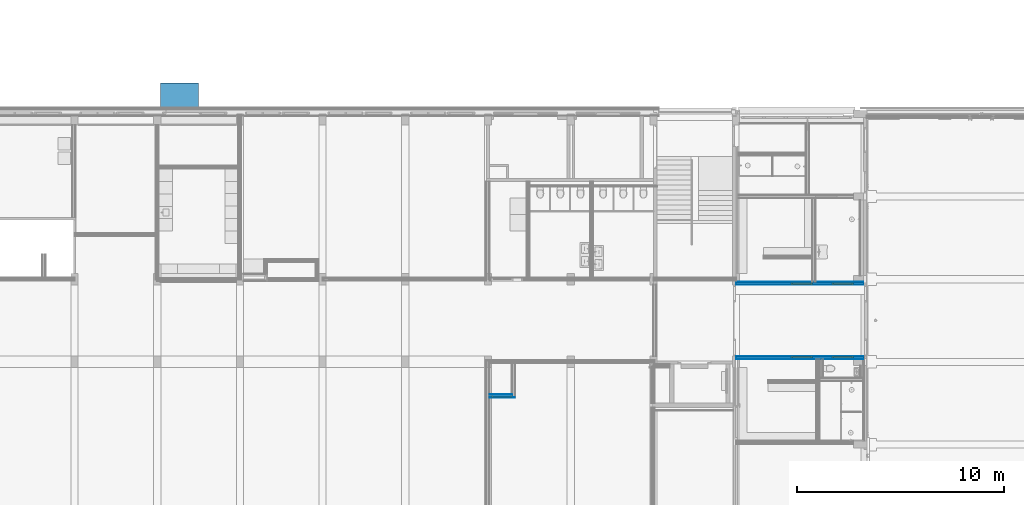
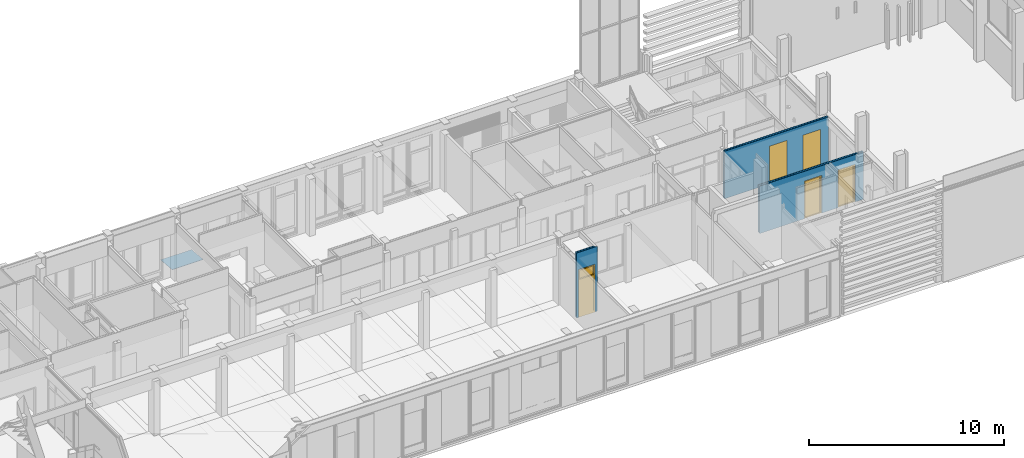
# One storey, part 2 of 109: 15 building element parts, 5 doors, 1 ramp, 5 openings, 3 elements without a shape of their own.
"""IFC2X3 building model written with IfcOpenShell, lengths in millimetres."""

from ifc_helpers import new_model, entity, si_unit, converted_unit, derived_unit, money_unit, direction, frame, origin_with_axes, place, context, subcontext, project, spatial, faceted_brep, source, transform, mapped, material, type_object, type_shapes, element, fill, aggregate, save


model = new_model("IFC2X3")

# Units and contexts
model_context = context("Model", 3, precision=0.01, world=origin_with_axes(), true_north=direction((0.0, 1.0)))
body_context = subcontext(model_context, "Body", "Model", "MODEL_VIEW")
ifc_project = project(units=[si_unit("LENGTHUNIT", "METRE", prefix="MILLI"), si_unit("AREAUNIT", "SQUARE_METRE"), si_unit("VOLUMEUNIT", "CUBIC_METRE"), converted_unit("PLANEANGLEUNIT", "DEGREE", entity("IfcPlaneAngleMeasure", 0.0174532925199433), si_unit("PLANEANGLEUNIT", "RADIAN"), dimensions=[0, 0, 0, 0, 0, 0, 0]), money_unit("EUR"), converted_unit("TIMEUNIT", "Year", entity("IfcTimeMeasure", 31557600.0), si_unit("TIMEUNIT", "SECOND"), dimensions=[0, 0, 1, 0, 0, 0, 0]), si_unit("MASSUNIT", "GRAM", prefix="KILO"), si_unit("THERMODYNAMICTEMPERATUREUNIT", "DEGREE_CELSIUS"), si_unit("LUMINOUSINTENSITYUNIT", "LUMEN"), si_unit("ENERGYUNIT", "JOULE", prefix="MEGA"), derived_unit("THERMALCONDUCTANCEUNIT", [(si_unit("POWERUNIT", "WATT"), 1), (si_unit("LENGTHUNIT", "METRE"), -1), (si_unit("THERMODYNAMICTEMPERATUREUNIT", "KELVIN"), -1)]), derived_unit("SPECIFICHEATCAPACITYUNIT", [(si_unit("ENERGYUNIT", "JOULE"), 1), (si_unit("MASSUNIT", "GRAM", prefix="KILO"), -1), (si_unit("THERMODYNAMICTEMPERATUREUNIT", "KELVIN"), -1)]), derived_unit("MASSDENSITYUNIT", [(si_unit("MASSUNIT", "GRAM", prefix="KILO"), 1), (si_unit("VOLUMEUNIT", "CUBIC_METRE"), -1)])], contexts=[model_context])

# Site, building, storey
site_placement = place(None, origin_with_axes())
site = spatial("IfcSite", under=ifc_project, at=site_placement, Name="<site naam>", CompositionType="ELEMENT")
building_placement = place(site_placement, origin_with_axes())
building = spatial("IfcBuilding", under=site, at=building_placement, Name="<Naam gebouw>", CompositionType="ELEMENT")
storey_placement = place(building_placement, origin_with_axes())
storey = spatial("IfcBuildingStorey", under=building, at=storey_placement, Name="00 Begane grond", CompositionType="ELEMENT", Elevation=0.0)

# Door
door_style_1 = type_object("IfcDoorStyle", Name="D1 27", ConstructionType="NOTDEFINED", OperationType="SINGLE_SWING_LEFT", ParameterTakesPrecedence=False, Sizeable=False)
shared_shape_1 = source(origin_with_axes(), body_context, "Body", "Brep", [
    faceted_brep([(-467.0, -40.0, 0.0), (-450.0, -40.0, 0.0), (-450.0, -40.0, 12.0), (-467.0, -40.0, 12.0), (467.0, -40.0, 0.0), (450.0, -40.0, 0.0), (450.0, -114.0, 0.0), (-450.0, -114.0, 0.0), (-450.0, -114.0, 11.99999999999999), (450.0, -114.0, 11.99999999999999), (450.0, -40.0, 12.0), (467.0, -40.0, 12.0)], [[[0, 1, 2, 3]], [[0, 4, 5, 6, 7, 1]], [[1, 7, 8, 2]], [[3, 2, 8, 9, 10, 11]], [[4, 0, 3, 11]], [[5, 4, 11, 10]], [[6, 5, 10, 9]], [[7, 6, 9, 8]]]),
    faceted_brep([(449.9999999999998, -40.0, 0.0), (450.0, -114.0, 0.0), (450.0, -114.0, 2300.0), (450.0, -39.99999999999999, 2300.0), (467.0, -40.0, 0.0), (467.0, 0.0, 0.0), (517.0, 0.0, 0.0), (517.0, -114.0, 0.0), (517.0, -114.0, 2300.0), (467.0, -40.0, 2300.0), (517.0, 0.0, 2300.0), (467.0, 0.0, 2300.0)], [[[0, 1, 2, 3]], [[4, 5, 6, 7, 1, 0]], [[1, 7, 8, 2]], [[9, 3, 2, 8, 10, 11]], [[9, 4, 0, 3]], [[11, 5, 4, 9]], [[11, 10, 6, 5]], [[6, 10, 8, 7]]]),
    faceted_brep([(-467.0, -40.0, 2300.0), (-467.0, 0.0, 2300.0), (-517.0, 0.0, 2300.0), (-517.0, -114.0, 2300.0), (-450.0, -114.0, 2300.0), (-450.0, -39.99999999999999, 2300.0), (-467.0, -40.0, 0.0), (-467.0, 0.0, 0.0), (-517.0, 0.0, 0.0), (-517.0, -114.0, 0.0), (-450.0, -114.0, 0.0), (-450.0, -40.0, 0.0)], [[[0, 1, 2, 3, 4, 5]], [[0, 6, 7, 1]], [[7, 8, 2, 1]], [[2, 8, 9, 3]], [[3, 9, 10, 4]], [[5, 4, 10, 11]], [[5, 11, 6, 0]], [[6, 11, 10, 9, 8, 7]]]),
    faceted_brep([(467.0, 0.0, 2317.0), (-467.0, 0.0, 2317.0), (-467.0, 0.0, 2300.0), (-517.0, 0.0, 2300.0), (-517.0, 0.0, 2367.0), (517.0, 0.0, 2367.0), (517.0, 0.0, 2300.0), (467.0, 0.0, 2300.0), (467.0, -40.0, 2317.0), (-467.0, -40.0, 2317.0), (-467.0, -40.0, 2300.0), (-450.0, -39.99999999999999, 2300.0), (-450.0, -114.0, 2300.0), (-517.0, -114.0, 2300.0), (-517.0, -114.0, 2367.0), (517.0, -114.0, 2367.0), (517.0, -114.0, 2300.0), (467.0, -40.0, 2300.0), (450.0, -114.0, 2300.0), (450.0, -39.99999999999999, 2300.0)], [[[0, 1, 2, 3, 4, 5, 6, 7]], [[0, 8, 9, 1]], [[1, 9, 10, 2]], [[10, 11, 12, 13, 3, 2]], [[4, 3, 13, 14]], [[5, 4, 14, 15]], [[6, 5, 15, 16]], [[17, 7, 6, 16, 18, 19]], [[7, 17, 8, 0]], [[10, 9, 8, 17, 19, 11]], [[19, 18, 12, 11]], [[12, 18, 16, 15, 14, 13]]]),
    faceted_brep([(-467.0000000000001, 0.0, 0.0), (467.0, 0.0, 0.0), (467.0, -40.0, 0.0), (-467.0000000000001, -40.0, 0.0), (-467.0000000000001, 0.0, 2317.0), (467.0, 0.0, 2317.0), (467.0, -40.00000000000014, 2317.0), (-467.0000000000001, -40.00000000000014, 2317.0)], [[[0, 1, 2, 3]], [[0, 4, 5, 1]], [[1, 5, 6, 2]], [[3, 2, 6, 7]], [[4, 0, 3, 7]], [[5, 4, 7, 6]]]),
])
type_shapes(door_style_1, [shared_shape_1])
wall_1_placement = place(storey_placement, frame((58157.78284470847, 11725.00000000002, 0.0), z_axis=(0.0, 0.0, 1.0), x_axis=(-1.0, 0.0, 0.0)))
opening_1_placement = place(wall_1_placement, frame((999.7828447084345, 0.0, 0.0), z_axis=(0.0, 0.0, 1.0), x_axis=(1.0, 0.0, 0.0)))
door_1_placement = place(opening_1_placement, frame((-450.0000000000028, 0.0, 0.0), z_axis=(0.0, 0.0, 1.0), x_axis=(1.0, 0.0, 0.0)))
door_1 = element("IfcDoor", 1, at=door_1_placement, inside=storey, type_object=door_style_1, Name="22_BI-A-01_305", ObjectType="DOOR", OverallHeight=2367.0, OverallWidth=1034.0, context=body_context, shape_type="MappedRepresentation", body=[
    mapped(shared_shape_1, transform((450.0000000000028, 0.0, 0.0))),
])

opening_2_placement = place(wall_1_placement, frame((2983.782841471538, 0.0, 0.0), z_axis=(0.0, 0.0, 1.0), x_axis=(1.0, 0.0, 0.0)))
door_2_placement = place(opening_2_placement, frame((-450.0000000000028, 0.0, 0.0), z_axis=(0.0, 0.0, 1.0), x_axis=(1.0, 0.0, 0.0)))
door_2 = element("IfcDoor", 2, at=door_2_placement, inside=storey, type_object=door_style_1, Name="22_BI-A-01_305", ObjectType="DOOR", OverallHeight=2367.0, OverallWidth=1034.0, context=body_context, shape_type="MappedRepresentation", body=[
    mapped(shared_shape_1, transform((450.0000000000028, 0.0, 0.0))),
])

door_style_2 = type_object("IfcDoorStyle", Name="D1 27", ConstructionType="NOTDEFINED", OperationType="SINGLE_SWING_RIGHT", ParameterTakesPrecedence=False, Sizeable=False)
shared_shape_2 = source(origin_with_axes(), body_context, "Body", "Brep", [
    faceted_brep([(467.0, -40.0, 0.0), (467.0, -40.0, 12.0), (450.0, -40.0, 12.0), (450.0, -40.0, 0.0), (-467.0, -40.0, 0.0), (-467.0, -40.0, 12.0), (-450.0, -40.0, 12.0), (-450.0, -114.0, 11.99999999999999), (450.0, -114.0, 11.99999999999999), (450.0, -114.0, 0.0), (-450.0, -114.0, 0.0), (-450.0, -40.0, 0.0)], [[[0, 1, 2, 3]], [[4, 5, 1, 0]], [[1, 5, 6, 7, 8, 2]], [[3, 2, 8, 9]], [[0, 3, 9, 10, 11, 4]], [[11, 6, 5, 4]], [[10, 7, 6, 11]], [[9, 8, 7, 10]]]),
    faceted_brep([(-449.9999999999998, -40.0, 0.0), (-450.0, -39.99999999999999, 2300.0), (-450.0, -114.0, 2300.0), (-450.0, -114.0, 0.0), (-467.0, -40.0, 2300.0), (-467.0, -40.0, 0.0), (-467.0, 0.0, 2300.0), (-517.0, 0.0, 2300.0), (-517.0, -114.0, 2300.0), (-517.0, -114.0, 0.0), (-517.0, 0.0, 0.0), (-467.0, 0.0, 0.0)], [[[0, 1, 2, 3]], [[4, 1, 0, 5]], [[4, 6, 7, 8, 2, 1]], [[3, 2, 8, 9]], [[5, 0, 3, 9, 10, 11]], [[6, 4, 5, 11]], [[6, 11, 10, 7]], [[10, 9, 8, 7]]]),
    faceted_brep([(467.0, -40.0, 2300.0), (450.0, -39.99999999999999, 2300.0), (450.0, -114.0, 2300.0), (517.0, -114.0, 2300.0), (517.0, 0.0, 2300.0), (467.0, 0.0, 2300.0), (467.0, -40.0, 0.0), (450.0, -40.0, 0.0), (450.0, -114.0, 0.0), (517.0, -114.0, 0.0), (517.0, 0.0, 0.0), (467.0, 0.0, 0.0)], [[[0, 1, 2, 3, 4, 5]], [[1, 0, 6, 7]], [[1, 7, 8, 2]], [[3, 2, 8, 9]], [[4, 3, 9, 10]], [[11, 5, 4, 10]], [[0, 5, 11, 6]], [[6, 11, 10, 9, 8, 7]]]),
    faceted_brep([(-467.0, 0.0, 2317.0), (-467.0, 0.0, 2300.0), (-517.0, 0.0, 2300.0), (-517.0, 0.0, 2367.0), (517.0, 0.0, 2367.0), (517.0, 0.0, 2300.0), (467.0, 0.0, 2300.0), (467.0, 0.0, 2317.0), (-467.0, -40.0, 2317.0), (-467.0, -40.0, 2300.0), (-450.0, -39.99999999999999, 2300.0), (-450.0, -114.0, 2300.0), (-517.0, -114.0, 2300.0), (-517.0, -114.0, 2367.0), (517.0, -114.0, 2367.0), (517.0, -114.0, 2300.0), (467.0, -40.0, 2300.0), (450.0, -114.0, 2300.0), (450.0, -39.99999999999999, 2300.0), (467.0, -40.0, 2317.0)], [[[0, 1, 2, 3, 4, 5, 6, 7]], [[1, 0, 8, 9]], [[9, 10, 11, 12, 2, 1]], [[2, 12, 13, 3]], [[3, 13, 14, 4]], [[4, 14, 15, 5]], [[16, 6, 5, 15, 17, 18]], [[7, 6, 16, 19]], [[0, 7, 19, 8]], [[16, 18, 10, 9, 8, 19]], [[10, 18, 17, 11]], [[17, 15, 14, 13, 12, 11]]]),
    faceted_brep([(467.0000000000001, 0.0, 0.0), (467.0000000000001, -40.0, 0.0), (-467.0, -40.0, 0.0), (-467.0, 0.0, 0.0), (467.0000000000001, 0.0, 2317.0), (467.0000000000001, -40.00000000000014, 2317.0), (-467.0, -40.00000000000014, 2317.0), (-467.0, 0.0, 2317.0)], [[[0, 1, 2, 3]], [[4, 5, 1, 0]], [[1, 5, 6, 2]], [[3, 2, 6, 7]], [[0, 3, 7, 4]], [[7, 6, 5, 4]]]),
])
type_shapes(door_style_2, [shared_shape_2])
wall_2_placement = place(storey_placement, frame((58157.78284470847, 8275.000000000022, 0.0), z_axis=(0.0, 0.0, 1.0), x_axis=(-1.0, 0.0, 0.0)))
opening_4_placement = place(wall_2_placement, frame((2983.78284147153, 0.0, 0.0), z_axis=(0.0, 0.0, 1.0), x_axis=(1.0, 0.0, 0.0)))
door_3_placement = place(opening_4_placement, frame((450.0000000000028, 0.0, 0.0), z_axis=(0.0, 0.0, 1.0), x_axis=(-1.0, 0.0, 0.0)))
door_3 = element("IfcDoor", 3, at=door_3_placement, inside=storey, type_object=door_style_2, Name="22_BI-A-01 sp_305", ObjectType="DOOR", OverallHeight=2367.0, OverallWidth=1034.0, context=body_context, shape_type="MappedRepresentation", body=[
    mapped(shared_shape_2, transform((450.0000000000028, 0.0, 0.0))),
])

opening_3_placement = place(wall_2_placement, frame((999.7828447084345, 0.0, 0.0), z_axis=(0.0, 0.0, 1.0), x_axis=(1.0, 0.0, 0.0)))
door_4_placement = place(opening_3_placement, frame((450.0000000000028, 0.0, 0.0), z_axis=(0.0, 0.0, 1.0), x_axis=(-1.0, 0.0, 0.0)))
door_4 = element("IfcDoor", 4, at=door_4_placement, inside=storey, type_object=door_style_2, Name="22_BI-A-01 sp_305", ObjectType="DOOR", OverallHeight=2367.0, OverallWidth=1034.0, context=body_context, shape_type="MappedRepresentation", body=[
    mapped(shared_shape_2, transform((450.0000000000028, 0.0, 0.0))),
])

door_style_3 = type_object("IfcDoorStyle", Name="D1 bl 27", ConstructionType="NOTDEFINED", OperationType="SINGLE_SWING_RIGHT", ParameterTakesPrecedence=False, Sizeable=False)
shared_shape_3 = source(origin_with_axes(), body_context, "Body", "Brep", [
    faceted_brep([(-425.0, -40.0, 2317.0), (-425.0, 0.0, 2317.0), (-425.0, 0.0, 2367.0), (-425.0, -140.0, 2367.0), (-425.0, -140.0, 2300.0), (-425.0, -140.0, 0.0), (-425.0, -40.0, 0.0), (-442.0, -40.0, 2317.0), (-442.0, 0.0, 2317.0), (-442.0, 0.0, 0.0), (-492.0, 0.0, 0.0), (-492.0, 0.0, 2933.0), (-425.0, 0.0, 2933.0), (-425.0, -140.0, 2933.0), (-492.0, -140.0, 2933.0), (-492.0, -140.0, 0.0), (-442.0, -40.0, 0.0)], [[[0, 1, 2, 3, 4, 5, 6]], [[1, 0, 7, 8]], [[8, 9, 10, 11, 12, 2, 1]], [[12, 13, 3, 2]], [[3, 13, 14, 15, 5, 4]], [[16, 6, 5, 15, 10, 9]], [[0, 6, 16, 7]], [[9, 8, 7, 16]], [[10, 15, 14, 11]], [[11, 14, 13, 12]]]),
    faceted_brep([(442.0, 0.0, 2317.0), (425.0, 0.0, 2317.0), (425.0, 0.0, 2367.0), (425.0, 0.0, 2933.0), (492.0, 0.0, 2933.0), (492.0, 0.0, 0.0), (442.0, 0.0, 0.0), (442.0, -40.0, 2317.0), (425.0, -40.0, 2317.0), (425.0, -40.0, 0.0), (425.0, -140.0, 0.0), (425.0, -140.0, 2300.0), (425.0, -140.0, 2367.0), (425.0, -140.0, 2933.0), (492.0, -140.0, 2933.0), (492.0, -140.0, 0.0), (442.0, -40.0, 0.0)], [[[0, 1, 2, 3, 4, 5, 6]], [[1, 0, 7, 8]], [[8, 9, 10, 11, 12, 2, 1]], [[2, 12, 13, 3]], [[3, 13, 14, 4]], [[4, 14, 15, 5]], [[16, 6, 5, 15, 10, 9]], [[0, 6, 16, 7]], [[16, 9, 8, 7]], [[12, 11, 10, 15, 14, 13]]]),
    faceted_brep([(-492.0, 0.0, 3000.0), (-492.0, 0.0, 2933.0), (-492.0, -140.0, 2933.0), (-492.0, -140.0, 3000.0), (492.0, 0.0, 3000.0), (492.0, 0.0, 2933.0), (425.0, 0.0, 2933.0), (-425.0, 0.0, 2933.0), (-425.0, -140.0, 2933.0), (425.0, -140.0, 2933.0), (492.0, -140.0, 2933.0), (492.0, -140.0, 3000.0)], [[[0, 1, 2, 3]], [[0, 4, 5, 6, 7, 1]], [[1, 7, 8, 2]], [[3, 2, 8, 9, 10, 11]], [[4, 0, 3, 11]], [[5, 4, 11, 10]], [[6, 5, 10, 9]], [[7, 6, 9, 8]]]),
    faceted_brep([(425.0, -40.0, 2317.0), (425.0, 0.0, 2317.0), (425.0, 0.0, 2367.0), (425.0, -140.0, 2367.0), (425.0, -140.0, 2300.0), (425.0, -40.0, 2300.0), (-425.0, -40.0, 2317.0), (-425.0, 0.0, 2317.0), (-425.0, 0.0, 2367.0), (-425.0, -140.0, 2367.0), (-425.0, -140.0, 2300.0), (-425.0, -40.0, 2300.0)], [[[0, 1, 2, 3, 4, 5]], [[1, 0, 6, 7]], [[1, 7, 8, 2]], [[8, 9, 3, 2]], [[10, 4, 3, 9]], [[11, 5, 4, 10]], [[0, 5, 11, 6]], [[6, 11, 10, 9, 8, 7]]]),
    faceted_brep([(442.0000000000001, 0.0, 0.0), (442.0000000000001, -40.0, 0.0), (-442.0, -40.0, 0.0), (-442.0, 0.0, 0.0), (442.0000000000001, 0.0, 2317.0), (442.0000000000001, -40.00000000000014, 2317.0), (-442.0, -40.00000000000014, 2317.0), (-442.0, 0.0, 2317.0)], [[[0, 1, 2, 3]], [[4, 5, 1, 0]], [[1, 5, 6, 2]], [[3, 2, 6, 7]], [[0, 3, 7, 4]], [[7, 6, 5, 4]]]),
    faceted_brep([(-425.0, -86.00000000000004, 2367.0), (425.0, -86.0, 2367.0), (425.0, -140.0, 2367.0), (-425.0, -140.0, 2367.0), (-425.0, -86.00000000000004, 2933.0), (425.0, -86.0, 2933.0), (425.0, -140.0, 2933.0), (-425.0, -140.0, 2933.0)], [[[0, 1, 2, 3]], [[0, 4, 5, 1]], [[1, 5, 6, 2]], [[3, 2, 6, 7]], [[4, 0, 3, 7]], [[5, 4, 7, 6]]]),
])
type_shapes(door_style_3, [shared_shape_3])
wall_3_placement = place(storey_placement, frame((41159.00000000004, 6425.000000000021, 0.0), z_axis=(0.0, 0.0, 1.0), x_axis=(-1.0, 0.0, 0.0)))
opening_5_placement = place(wall_3_placement, frame((492.0000000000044, 0.0, 0.0), z_axis=(0.0, 0.0, 1.0), x_axis=(1.0, 0.0, 0.0)))
door_5_placement = place(opening_5_placement, frame((-424.9999999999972, 0.0, 0.0), z_axis=(0.0, 0.0, 1.0), x_axis=(1.0, 0.0, 0.0)))
door_5 = element("IfcDoor", 5, at=door_5_placement, inside=storey, type_object=door_style_3, Name="22_BI-E-05_305", ObjectType="DOOR", OverallHeight=3000.0, OverallWidth=984.0, context=body_context, shape_type="MappedRepresentation", body=[
    mapped(shared_shape_3, transform((424.9999999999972, 150.0000000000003, 0.0))),
])

# Ramp
ramp_placement = place(storey_placement, frame((25998.85663894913, 21493.83738422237, 0.0), z_axis=(0.0, 0.0, 1.0), x_axis=(0.0, 1.0, 0.0)))
element("IfcRamp", 6, at=ramp_placement, inside=storey, Name="24_Sanitair-x_Lege", ShapeType="NOTDEFINED", context=body_context, shape_type="Brep", body=[
    faceted_brep([(0.0, 0.0, 0.0), (0.0, 1836.992273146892, 0.0), (-1195.837384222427, 1836.992273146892, 104.6222145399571), (-1195.837384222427, 0.0, 104.6222145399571), (-229.4742595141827, -3.895163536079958e-07, -2.362759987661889e-08), (-229.4742595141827, 1836.992272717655, -2.362759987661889e-08), (-1195.837384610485, 1836.992272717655, 84.54581827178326), (-1195.837384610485, -3.895163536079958e-07, 84.54581827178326)], [[[0, 1, 2, 3]], [[1, 0, 4, 5]], [[2, 1, 5, 6]], [[3, 2, 6, 7]], [[0, 3, 7, 4]], [[5, 4, 7, 6]]]),
])

# Wall, opening
wall_type = type_object("IfcWallType", Name="MS-01 GF 150 ECO DGS/2.100.2.A 150", PredefinedType="NOTDEFINED")
wall_1 = element("IfcWall", 7, at=wall_1_placement, inside=storey, type_object=wall_type, Name="22_Binnenwand_MS-01")
opening_1 = element("IfcOpeningElement", 8, at=opening_1_placement, cuts=wall_1, Name="22_BI-A-01_305", context=body_context, shape_type="Brep", body=[
    faceted_brep([(-517.000000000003, -150.9999999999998, 2367.0), (-517.000000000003, -150.9999999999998, 0.0), (517.000000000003, -150.9999999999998, 0.0), (517.000000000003, -150.9999999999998, 2367.0), (-517.000000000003, 0.9999999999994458, 2367.0), (-517.000000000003, 0.9999999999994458, 0.0), (517.000000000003, 0.9999999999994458, 0.0), (517.000000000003, 0.9999999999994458, 2367.0)], [[[0, 1, 2, 3]], [[4, 5, 1, 0]], [[5, 6, 2, 1]], [[6, 7, 3, 2]], [[7, 4, 0, 3]], [[6, 5, 4, 7]]]),
])

fill(opening_1, door_1)

# Opening
opening_2 = element("IfcOpeningElement", 9, at=opening_2_placement, cuts=wall_1, Name="22_BI-A-01_305", context=body_context, shape_type="Brep", body=[
    faceted_brep([(-517.000000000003, -150.9999999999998, 2367.0), (-517.000000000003, -150.9999999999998, 0.0), (517.000000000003, -150.9999999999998, 0.0), (517.000000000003, -150.9999999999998, 2367.0), (-517.000000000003, 0.9999999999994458, 2367.0), (-517.000000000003, 0.9999999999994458, 0.0), (517.000000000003, 0.9999999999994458, 0.0), (517.000000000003, 0.9999999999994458, 2367.0)], [[[0, 1, 2, 3]], [[4, 5, 1, 0]], [[5, 6, 2, 1]], [[6, 7, 3, 2]], [[7, 4, 0, 3]], [[6, 5, 4, 7]]]),
])

fill(opening_2, door_2)

# Building element part
ifc_material_1 = material(Name="gipsplaat")
building_element_part_1_placement = place(wall_1_placement, origin_with_axes())
building_element_part_1 = element("IfcBuildingElementPart", 10, at=building_element_part_1_placement, material=ifc_material_1, Name="gipsplaat", context=body_context, shape_type="Brep", body=[
    faceted_brep([(6157.782844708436, -12.50000000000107, 2978.0), (0.0, -12.49999999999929, 2978.0), (0.0, -12.49999999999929, 0.0), (6157.782844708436, -12.50000000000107, 0.0), (0.0, 0.0, 2978.0), (6157.782844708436, 0.0, 2978.0), (0.0, 0.0, 0.0), (6157.782844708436, 0.0, 0.0)], [[[0, 1, 2, 3]], [[4, 1, 0, 5]], [[1, 4, 6, 2]], [[6, 7, 3, 2]], [[5, 0, 3, 7]], [[4, 5, 7, 6]]]),
])

building_element_part_2_placement = place(wall_1_placement, origin_with_axes())
building_element_part_2 = element("IfcBuildingElementPart", 11, at=building_element_part_2_placement, material=ifc_material_1, Name="gipsplaat", context=body_context, shape_type="Brep", body=[
    faceted_brep([(6157.782844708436, -25.00000000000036, 2978.0), (0.0, -24.99999999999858, 2978.0), (0.0, -25.00000000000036, 0.0), (6157.782844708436, -25.00000000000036, 0.0), (0.0, -12.49999999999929, 2978.0), (6157.782844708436, -12.50000000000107, 2978.0), (0.0, -12.49999999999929, 0.0), (6157.782844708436, -12.50000000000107, 0.0)], [[[0, 1, 2, 3]], [[4, 1, 0, 5]], [[1, 4, 6, 2]], [[6, 7, 3, 2]], [[5, 0, 3, 7]], [[4, 5, 7, 6]]]),
])

ifc_material_2 = material(Name="isolatie_steenwol LSW")
building_element_part_3_placement = place(wall_1_placement, origin_with_axes())
building_element_part_3 = element("IfcBuildingElementPart", 12, at=building_element_part_3_placement, material=ifc_material_2, Name="isolatie_steenwol LSW", context=body_context, shape_type="Brep", body=[
    faceted_brep([(6157.782844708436, -125.0, 2978.0), (0.0, -124.9999999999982, 2978.0), (0.0, -125.0, 0.0), (6157.782844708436, -125.0, 0.0), (0.0, -25.00000000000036, 2978.0), (6157.782844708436, -25.00000000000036, 2978.0), (0.0, -25.00000000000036, 0.0), (6157.782844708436, -25.00000000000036, 0.0)], [[[0, 1, 2, 3]], [[4, 1, 0, 5]], [[1, 4, 6, 2]], [[6, 7, 3, 2]], [[5, 0, 3, 7]], [[4, 5, 7, 6]]]),
])

building_element_part_4_placement = place(wall_1_placement, origin_with_axes())
building_element_part_4 = element("IfcBuildingElementPart", 13, at=building_element_part_4_placement, material=ifc_material_1, Name="gipsplaat", context=body_context, shape_type="Brep", body=[
    faceted_brep([(6157.782844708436, -137.5000000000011, 2978.0), (0.0, -137.4999999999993, 2978.0), (0.0, -137.4999999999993, 0.0), (6157.782844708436, -137.5000000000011, 0.0), (0.0, -125.0, 2978.0), (6157.782844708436, -125.0, 2978.0), (0.0, -125.0, 0.0), (6157.782844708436, -125.0, 0.0)], [[[0, 1, 2, 3]], [[4, 1, 0, 5]], [[1, 4, 6, 2]], [[6, 7, 3, 2]], [[5, 0, 3, 7]], [[4, 5, 7, 6]]]),
])

building_element_part_5_placement = place(wall_1_placement, origin_with_axes())
building_element_part_5 = element("IfcBuildingElementPart", 14, at=building_element_part_5_placement, material=ifc_material_1, Name="gipsplaat", context=body_context, shape_type="Brep", body=[
    faceted_brep([(6157.782844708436, -150.0000000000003, 2978.0), (0.0, -149.9999999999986, 2978.0), (0.0, -150.0000000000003, 0.0), (6157.782844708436, -150.0000000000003, 0.0), (0.0, -137.4999999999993, 2978.0), (6157.782844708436, -137.5000000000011, 2978.0), (0.0, -137.4999999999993, 0.0), (6157.782844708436, -137.5000000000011, 0.0)], [[[0, 1, 2, 3]], [[4, 1, 0, 5]], [[1, 4, 6, 2]], [[6, 7, 3, 2]], [[5, 0, 3, 7]], [[4, 5, 7, 6]]]),
])

aggregate(wall_1, [building_element_part_1, building_element_part_2, building_element_part_3, building_element_part_4, building_element_part_5])

# Wall, opening
wall_2 = element("IfcWall", 15, at=wall_2_placement, inside=storey, type_object=wall_type, Name="22_Binnenwand_MS-01")
opening_3 = element("IfcOpeningElement", 16, at=opening_3_placement, cuts=wall_2, Name="22_BI-A-01 sp_305", context=body_context, shape_type="Brep", body=[
    faceted_brep([(517.000000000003, 150.9999999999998, 2367.0), (517.000000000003, 150.9999999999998, 0.0), (-517.000000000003, 150.9999999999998, 0.0), (-517.000000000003, 150.9999999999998, 2367.0), (517.000000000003, -0.9999999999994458, 2367.0), (517.000000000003, -0.9999999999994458, 0.0), (-517.000000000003, -0.9999999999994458, 0.0), (-517.000000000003, -0.9999999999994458, 2367.0)], [[[0, 1, 2, 3]], [[4, 5, 1, 0]], [[5, 6, 2, 1]], [[6, 7, 3, 2]], [[7, 4, 0, 3]], [[6, 5, 4, 7]]]),
])

fill(opening_3, door_4)

# Opening
opening_4 = element("IfcOpeningElement", 17, at=opening_4_placement, cuts=wall_2, Name="22_BI-A-01 sp_305", context=body_context, shape_type="Brep", body=[
    faceted_brep([(517.000000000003, 150.9999999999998, 2367.0), (517.000000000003, 150.9999999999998, 0.0), (-517.000000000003, 150.9999999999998, 0.0), (-517.000000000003, 150.9999999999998, 2367.0), (517.000000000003, -0.9999999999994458, 2367.0), (517.000000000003, -0.9999999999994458, 0.0), (-517.000000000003, -0.9999999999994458, 0.0), (-517.000000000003, -0.9999999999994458, 2367.0)], [[[0, 1, 2, 3]], [[4, 5, 1, 0]], [[5, 6, 2, 1]], [[6, 7, 3, 2]], [[7, 4, 0, 3]], [[6, 5, 4, 7]]]),
])

fill(opening_4, door_3)

# Building element part
building_element_part_6_placement = place(wall_2_placement, origin_with_axes())
building_element_part_6 = element("IfcBuildingElementPart", 18, at=building_element_part_6_placement, material=ifc_material_1, Name="gipsplaat", context=body_context, shape_type="Brep", body=[
    faceted_brep([(6157.782844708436, 137.4999999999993, 2978.0), (0.0, 137.5000000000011, 2978.0), (0.0, 137.4999999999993, 0.0), (482.7828450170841, 137.4999999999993, 0.0), (482.7828450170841, 137.4999999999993, 2.999999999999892), (1516.78283584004, 137.4999999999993, 2.999999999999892), (1516.78283584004, 137.4999999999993, 0.0), (6157.782844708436, 137.4999999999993, 0.0), (0.0, 150.0000000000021, 2978.0), (6157.782844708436, 150.0000000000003, 2978.0), (0.0, 150.0000000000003, 0.0), (482.7828450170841, 150.0000000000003, 0.0), (482.7828450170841, 150.0000000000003, 2.999999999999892), (1516.78283584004, 150.0000000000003, 2.999999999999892), (1516.78283584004, 150.0000000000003, 0.0), (6157.782844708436, 150.0000000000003, 0.0)], [[[0, 1, 2, 3, 4, 5, 6, 7]], [[8, 1, 0, 9]], [[1, 8, 10, 2]], [[10, 11, 3, 2]], [[12, 4, 3, 11]], [[13, 5, 4, 12]], [[14, 6, 5, 13]], [[7, 6, 14, 15]], [[9, 0, 7, 15]], [[8, 9, 15, 14, 13, 12, 11, 10]]]),
])

building_element_part_7_placement = place(wall_2_placement, origin_with_axes())
building_element_part_7 = element("IfcBuildingElementPart", 19, at=building_element_part_7_placement, material=ifc_material_1, Name="gipsplaat", context=body_context, shape_type="Brep", body=[
    faceted_brep([(6157.782844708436, 125.0, 2978.0), (0.0, 124.9999999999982, 2978.0), (0.0, 125.0, 0.0), (482.7828450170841, 125.0, 0.0), (482.7828450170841, 125.0, 2.999999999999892), (1516.78283584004, 125.0, 2.999999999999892), (1516.78283584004, 125.0, 0.0), (6157.782844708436, 125.0, 0.0), (0.0, 137.5000000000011, 2978.0), (6157.782844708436, 137.4999999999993, 2978.0), (0.0, 137.4999999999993, 0.0), (482.7828450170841, 137.4999999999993, 0.0), (482.7828450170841, 137.4999999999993, 2.999999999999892), (1516.78283584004, 137.4999999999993, 2.999999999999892), (1516.78283584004, 137.4999999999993, 0.0), (6157.782844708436, 137.4999999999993, 0.0)], [[[0, 1, 2, 3, 4, 5, 6, 7]], [[8, 1, 0, 9]], [[1, 8, 10, 2]], [[10, 11, 3, 2]], [[12, 4, 3, 11]], [[13, 5, 4, 12]], [[14, 6, 5, 13]], [[7, 6, 14, 15]], [[9, 0, 7, 15]], [[8, 9, 15, 14, 13, 12, 11, 10]]]),
])

building_element_part_8_placement = place(wall_2_placement, origin_with_axes())
building_element_part_8 = element("IfcBuildingElementPart", 20, at=building_element_part_8_placement, material=ifc_material_2, Name="isolatie_steenwol LSW", context=body_context, shape_type="Brep", body=[
    faceted_brep([(6157.782844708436, 25.00000000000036, 2978.0), (0.0, 25.00000000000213, 2978.0), (0.0, 25.00000000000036, 0.0), (482.7828450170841, 25.00000000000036, 0.0), (482.7828450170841, 25.00000000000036, 2.999999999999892), (1516.78283584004, 25.00000000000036, 2.999999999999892), (1516.78283584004, 25.00000000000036, 0.0), (6157.782844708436, 25.00000000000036, 0.0), (0.0, 125.0, 2978.0), (6157.782844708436, 125.0, 2978.0), (0.0, 125.0, 0.0), (482.7828450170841, 125.0, 0.0), (482.7828450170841, 125.0, 2.999999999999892), (1516.78283584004, 125.0, 2.999999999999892), (1516.78283584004, 125.0, 0.0), (6157.782844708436, 125.0, 0.0)], [[[0, 1, 2, 3, 4, 5, 6, 7]], [[8, 1, 0, 9]], [[1, 8, 10, 2]], [[10, 11, 3, 2]], [[12, 4, 3, 11]], [[13, 5, 4, 12]], [[14, 6, 5, 13]], [[7, 6, 14, 15]], [[9, 0, 7, 15]], [[8, 9, 15, 14, 13, 12, 11, 10]]]),
])

building_element_part_9_placement = place(wall_2_placement, origin_with_axes())
building_element_part_9 = element("IfcBuildingElementPart", 21, at=building_element_part_9_placement, material=ifc_material_1, Name="gipsplaat", context=body_context, shape_type="Brep", body=[
    faceted_brep([(6157.782844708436, 12.49999999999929, 2978.0), (0.0, 12.50000000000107, 2978.0), (0.0, 12.49999999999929, 0.0), (482.7828450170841, 12.49999999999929, 0.0), (482.7828450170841, 12.49999999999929, 2.999999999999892), (1516.78283584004, 12.49999999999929, 2.999999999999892), (1516.78283584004, 12.49999999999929, 0.0), (6157.782844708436, 12.49999999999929, 0.0), (0.0, 25.00000000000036, 2978.0), (6157.782844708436, 25.00000000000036, 2978.0), (0.0, 25.00000000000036, 0.0), (482.7828450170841, 25.00000000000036, 0.0), (482.7828450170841, 25.00000000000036, 2.999999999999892), (1516.78283584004, 25.00000000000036, 2.999999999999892), (1516.78283584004, 25.00000000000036, 0.0), (6157.782844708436, 25.00000000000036, 0.0)], [[[0, 1, 2, 3, 4, 5, 6, 7]], [[8, 1, 0, 9]], [[1, 8, 10, 2]], [[10, 11, 3, 2]], [[12, 4, 3, 11]], [[13, 5, 4, 12]], [[14, 6, 5, 13]], [[7, 6, 14, 15]], [[9, 0, 7, 15]], [[8, 9, 15, 14, 13, 12, 11, 10]]]),
])

building_element_part_10_placement = place(wall_2_placement, origin_with_axes())
building_element_part_10 = element("IfcBuildingElementPart", 22, at=building_element_part_10_placement, material=ifc_material_1, Name="gipsplaat", context=body_context, shape_type="Brep", body=[
    faceted_brep([(6157.782844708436, 0.0, 2978.0), (0.0, 0.0, 2978.0), (0.0, 0.0, 0.0), (482.7828450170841, -5.116902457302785e-06, 0.0), (482.7828450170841, -5.116902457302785e-06, 2.999999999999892), (1516.78283584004, -5.116902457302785e-06, 2.999999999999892), (1516.78283584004, -5.116902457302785e-06, 0.0), (6157.782844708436, 0.0, 0.0), (0.0, 12.50000000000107, 2978.0), (6157.782844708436, 12.49999999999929, 2978.0), (0.0, 12.49999999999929, 0.0), (482.7828450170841, 12.49999999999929, 0.0), (482.7828450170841, 12.49999999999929, 2.999999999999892), (1516.78283584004, 12.49999999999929, 2.999999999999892), (1516.78283584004, 12.49999999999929, 0.0), (6157.782844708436, 12.49999999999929, 0.0)], [[[0, 1, 2, 3, 4, 5, 6, 7]], [[8, 1, 0, 9]], [[1, 8, 10, 2]], [[10, 11, 3, 2]], [[12, 4, 3, 11]], [[13, 5, 4, 12]], [[14, 6, 5, 13]], [[7, 6, 14, 15]], [[9, 0, 7, 15]], [[8, 9, 15, 14, 13, 12, 11, 10]]]),
])

aggregate(wall_2, [building_element_part_6, building_element_part_7, building_element_part_8, building_element_part_9, building_element_part_10])

# Wall, opening
wall_3 = element("IfcWall", 23, at=wall_3_placement, inside=storey, type_object=wall_type, Name="22_Binnenwand_MS-01")
opening_5 = element("IfcOpeningElement", 24, at=opening_5_placement, cuts=wall_3, Name="22_BI-E-05_305", context=body_context, shape_type="Brep", body=[
    faceted_brep([(-491.9999999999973, -1.000000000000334, 3000.0), (-491.9999999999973, -1.000000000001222, 0.0), (491.9999999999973, -1.000000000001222, 0.0), (491.9999999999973, -1.000000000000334, 3000.0), (-491.9999999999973, 151.0000000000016, 3000.0), (-491.9999999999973, 151.0000000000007, 0.0), (491.9999999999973, 151.0000000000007, 0.0), (491.9999999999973, 151.0000000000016, 3000.0)], [[[0, 1, 2, 3]], [[4, 5, 1, 0]], [[5, 6, 2, 1]], [[6, 7, 3, 2]], [[7, 4, 0, 3]], [[6, 5, 4, 7]]]),
])

fill(opening_5, door_5)

# Building element part
building_element_part_11_placement = place(wall_3_placement, origin_with_axes())
building_element_part_11 = element("IfcBuildingElementPart", 25, at=building_element_part_11_placement, material=ifc_material_1, Name="gipsplaat", context=body_context, shape_type="Brep", body=[
    faceted_brep([(-125.0, 137.5000000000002, 3.000000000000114), (-125.0, 125.0, 3.000000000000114), (-125.0, 125.0, 4070.0), (-125.0, 137.5000000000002, 4070.0), (1083.999973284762, 125.0, 3.000000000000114), (1083.999973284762, 137.5000000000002, 3.000000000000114), (1084.00000000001, 125.0, 4070.0), (1084.00000000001, 137.5000000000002, 4070.0)], [[[0, 1, 2, 3]], [[4, 1, 0, 5]], [[1, 4, 6, 2]], [[6, 7, 3, 2]], [[5, 0, 3, 7]], [[4, 5, 7, 6]]]),
])

building_element_part_12_placement = place(wall_3_placement, origin_with_axes())
building_element_part_12 = element("IfcBuildingElementPart", 26, at=building_element_part_12_placement, material=ifc_material_1, Name="gipsplaat", context=body_context, shape_type="Brep", body=[
    faceted_brep([(-137.5000000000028, 150.0000000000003, 3.000000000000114), (-137.5000000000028, 137.5000000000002, 3.000000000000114), (-137.5000000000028, 137.5000000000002, 4070.0), (-137.5000000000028, 150.0000000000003, 4070.0), (1083.999973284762, 137.5000000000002, 3.000000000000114), (1083.999973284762, 150.0000000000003, 3.000000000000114), (1084.00000000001, 137.5000000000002, 4070.0), (1084.00000000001, 150.0000000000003, 4070.0)], [[[0, 1, 2, 3]], [[4, 1, 0, 5]], [[1, 4, 6, 2]], [[6, 7, 3, 2]], [[5, 0, 3, 7]], [[4, 5, 7, 6]]]),
])

building_element_part_13_placement = place(wall_3_placement, origin_with_axes())
building_element_part_13 = element("IfcBuildingElementPart", 27, at=building_element_part_13_placement, material=ifc_material_1, Name="gipsplaat", context=body_context, shape_type="Brep", body=[
    faceted_brep([(-12.50000000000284, 25.00000000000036, 3.000000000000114), (-12.50000000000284, 12.50000000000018, 3.000000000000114), (-12.50000000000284, 12.50000000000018, 4070.0), (-12.50000000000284, 25.00000000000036, 4070.0), (1083.999973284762, 12.50000000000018, 3.000000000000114), (1083.999973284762, 24.99999999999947, 3.000000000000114), (1084.00000000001, 12.50000000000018, 4070.0), (1084.00000000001, 25.00000000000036, 4070.0)], [[[0, 1, 2, 3]], [[4, 1, 0, 5]], [[1, 4, 6, 2]], [[6, 7, 3, 2]], [[5, 0, 3, 7]], [[4, 5, 7, 6]]]),
])

building_element_part_14_placement = place(wall_3_placement, origin_with_axes())
building_element_part_14 = element("IfcBuildingElementPart", 28, at=building_element_part_14_placement, material=ifc_material_2, Name="isolatie_steenwol LSW", context=body_context, shape_type="Brep", body=[
    faceted_brep([(-24.99999999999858, 125.0, 3.000000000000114), (-24.99999999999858, 25.00000000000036, 3.000000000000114), (-24.99999999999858, 25.00000000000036, 4070.0), (-24.99999999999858, 125.0, 4070.0), (1083.999973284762, 24.99999999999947, 3.000000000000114), (1083.999973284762, 125.0, 3.000000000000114), (1084.00000000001, 25.00000000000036, 4070.0), (1084.00000000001, 125.0, 4070.0)], [[[0, 1, 2, 3]], [[4, 1, 0, 5]], [[1, 4, 6, 2]], [[6, 7, 3, 2]], [[5, 0, 3, 7]], [[4, 5, 7, 6]]]),
])

building_element_part_15_placement = place(wall_3_placement, origin_with_axes())
building_element_part_15 = element("IfcBuildingElementPart", 29, at=building_element_part_15_placement, material=ifc_material_1, Name="gipsplaat", context=body_context, shape_type="Brep", body=[
    faceted_brep([(0.0, 12.50000000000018, 3.000000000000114), (0.0, 0.0, 3.000000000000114), (0.0, 0.0, 4070.0), (0.0, 12.50000000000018, 4070.0), (1083.999973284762, 0.0, 3.000000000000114), (1083.999973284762, 12.50000000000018, 3.000000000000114), (1084.00000000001, 0.0, 4070.0), (1084.00000000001, 12.50000000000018, 4070.0)], [[[0, 1, 2, 3]], [[4, 1, 0, 5]], [[1, 4, 6, 2]], [[6, 7, 3, 2]], [[5, 0, 3, 7]], [[4, 5, 7, 6]]]),
])

aggregate(wall_3, [building_element_part_11, building_element_part_12, building_element_part_13, building_element_part_14, building_element_part_15])

save(model, "model.ifc")
